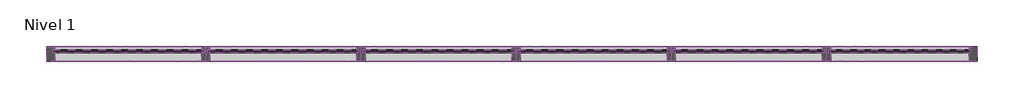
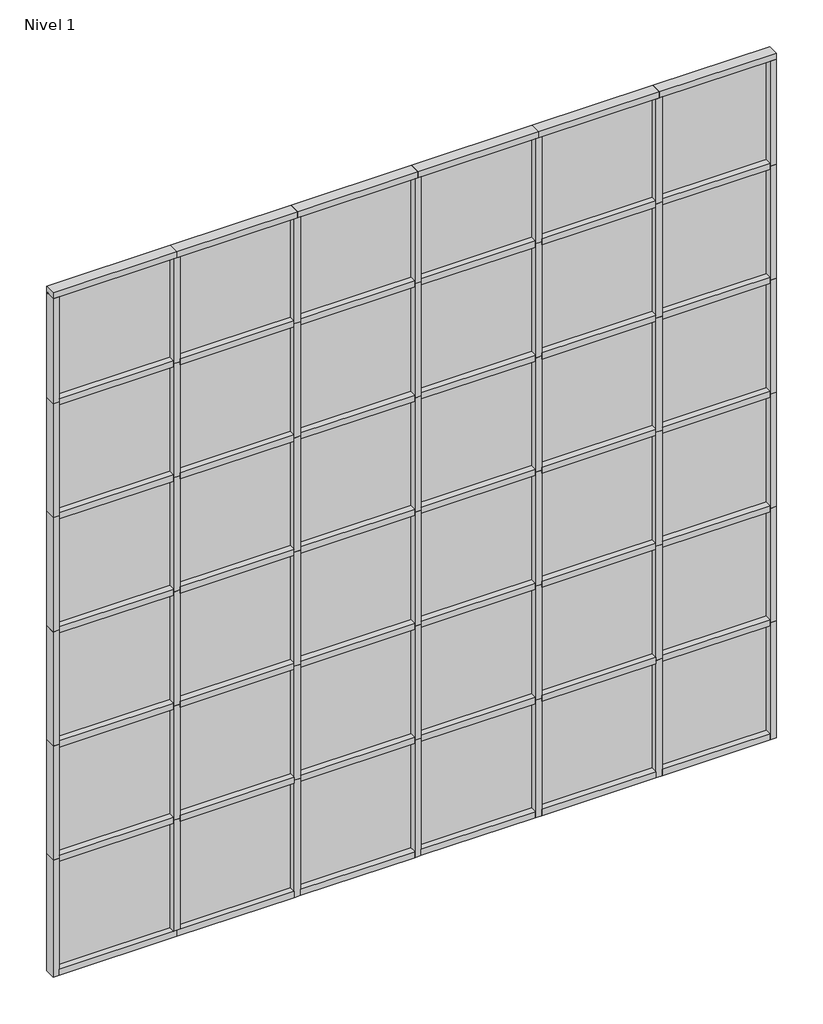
# One storey, part 5 of 6: 84 members, 36 plates.
"""IFC4 building model written with IfcOpenShell, lengths in millimetres."""

from ifc_helpers import new_model, si_unit, origin, place, context, project, spatial, transform, mapped, element, save
from components import montante_rectangular_montante_rectangular_central_30_8_mm_2c331f7a, montante_rectangular_montante_rectangular_central_30_8_mm_c970fd36, montante_rectangular_montante_rectangular_central_30_8_mm_e5800b63, montante_rectangular_montante_rectangular_central_30_8_mm_53c3e57f, montante_rectangular_montante_rectangular_central_30_8_mm_d86f33cf, montante_rectangular_montante_rectangular_central_30_8_mm_2cc1dee6, montante_rectangular_montante_rectangular_extremo_1_30_8_mm_80b4f17c, montante_rectangular_montante_rectangular_extremo_1_30_8_mm_140b2925, montante_rectangular_montante_rectangular_extremo_1_30_8_mm_5074caf2, montante_rectangular_montante_rectangular_extremo_1_30_8_mm_62ab01bd, montante_rectangular_montante_rectangular_extremo_1_30_8_mm_7b62097b, montante_rectangular_montante_rectangular_extremo_1_30_8_mm_4f2bc4b4, plate_e0fb009f, plate_7c9cb06b, plate_31a977c4, plate_dd025fa3

model = new_model("IFC4")

# Units and contexts
model_context = context("Model", 3, world=origin())
ifc_project = project(units=[si_unit("LENGTHUNIT", "METRE", prefix="MILLI")], contexts=[model_context])

# Site, building, storey
site = spatial("IfcSite", under=ifc_project)
building = spatial("IfcBuilding", under=site)
storey = spatial("IfcBuildingStorey", under=building, Name="Nivel 1", Elevation=0.0)

# Members
placement = place(None, origin())
montante_rectangular_montante_rectangular_central_30_8_mm_shape = montante_rectangular_montante_rectangular_central_30_8_mm_2c331f7a(model_context)
element("IfcMember", 1, ObjectType="Montante rectangular : Montante rectangular - Central_30.8 mm", at=placement, inside=storey, context=model_context, shape_type="MappedRepresentation", body=[
    mapped(montante_rectangular_montante_rectangular_central_30_8_mm_shape, transform((3882.4519756, 4524.4730809, 1540.0), x_axis=(0.0, 0.0, 1.0), y_axis=(0.0, -1.0, 0.0), z_axis=(1.0, 0.0, 0.0))),
])
element("IfcMember", 2, ObjectType="Montante rectangular : Montante rectangular - Central_30.8 mm", at=placement, inside=storey, context=model_context, shape_type="MappedRepresentation", body=[
    mapped(montante_rectangular_montante_rectangular_central_30_8_mm_shape, transform((5382.4519756, 4524.4730809, 1540.0), x_axis=(0.0, 0.0, 1.0), y_axis=(0.0, -1.0, 0.0), z_axis=(1.0, 0.0, 0.0))),
])
element("IfcMember", 3, ObjectType="Montante rectangular : Montante rectangular - Central_30.8 mm", at=placement, inside=storey, context=model_context, shape_type="MappedRepresentation", body=[
    mapped(montante_rectangular_montante_rectangular_central_30_8_mm_shape, transform((6882.4519756, 4524.4730809, 1540.0), x_axis=(0.0, 0.0, 1.0), y_axis=(0.0, -1.0, 0.0), z_axis=(1.0, 0.0, 0.0))),
])
element("IfcMember", 4, ObjectType="Montante rectangular : Montante rectangular - Central_30.8 mm", at=placement, inside=storey, context=model_context, shape_type="MappedRepresentation", body=[
    mapped(montante_rectangular_montante_rectangular_central_30_8_mm_shape, transform((8382.4519756, 4524.4730809, 1540.0), x_axis=(0.0, 0.0, 1.0), y_axis=(0.0, -1.0, 0.0), z_axis=(1.0, 0.0, 0.0))),
])
element("IfcMember", 5, ObjectType="Montante rectangular : Montante rectangular - Central_30.8 mm", at=placement, inside=storey, context=model_context, shape_type="MappedRepresentation", body=[
    mapped(montante_rectangular_montante_rectangular_central_30_8_mm_shape, transform((9882.4519756, 4524.4730809, 1540.0), x_axis=(0.0, 0.0, 1.0), y_axis=(0.0, -1.0, 0.0), z_axis=(1.0, 0.0, 0.0))),
])
element("IfcMember", 6, ObjectType="Montante rectangular : Montante rectangular - Central_30.8 mm", at=placement, inside=storey, context=model_context, shape_type="MappedRepresentation", body=[
    mapped(montante_rectangular_montante_rectangular_central_30_8_mm_shape, transform((3882.4519756, 4524.4730809, 3040.0), x_axis=(0.0, 0.0, 1.0), y_axis=(0.0, -1.0, 0.0), z_axis=(1.0, 0.0, 0.0))),
])
element("IfcMember", 7, ObjectType="Montante rectangular : Montante rectangular - Central_30.8 mm", at=placement, inside=storey, context=model_context, shape_type="MappedRepresentation", body=[
    mapped(montante_rectangular_montante_rectangular_central_30_8_mm_shape, transform((5382.4519756, 4524.4730809, 3040.0), x_axis=(0.0, 0.0, 1.0), y_axis=(0.0, -1.0, 0.0), z_axis=(1.0, 0.0, 0.0))),
])
element("IfcMember", 8, ObjectType="Montante rectangular : Montante rectangular - Central_30.8 mm", at=placement, inside=storey, context=model_context, shape_type="MappedRepresentation", body=[
    mapped(montante_rectangular_montante_rectangular_central_30_8_mm_shape, transform((6882.4519756, 4524.4730809, 3040.0), x_axis=(0.0, 0.0, 1.0), y_axis=(0.0, -1.0, 0.0), z_axis=(1.0, 0.0, 0.0))),
])
element("IfcMember", 9, ObjectType="Montante rectangular : Montante rectangular - Central_30.8 mm", at=placement, inside=storey, context=model_context, shape_type="MappedRepresentation", body=[
    mapped(montante_rectangular_montante_rectangular_central_30_8_mm_shape, transform((8382.4519756, 4524.4730809, 3040.0), x_axis=(0.0, 0.0, 1.0), y_axis=(0.0, -1.0, 0.0), z_axis=(1.0, 0.0, 0.0))),
])
element("IfcMember", 10, ObjectType="Montante rectangular : Montante rectangular - Central_30.8 mm", at=placement, inside=storey, context=model_context, shape_type="MappedRepresentation", body=[
    mapped(montante_rectangular_montante_rectangular_central_30_8_mm_shape, transform((9882.4519756, 4524.4730809, 3040.0), x_axis=(0.0, 0.0, 1.0), y_axis=(0.0, -1.0, 0.0), z_axis=(1.0, 0.0, 0.0))),
])
element("IfcMember", 11, ObjectType="Montante rectangular : Montante rectangular - Central_30.8 mm", at=placement, inside=storey, context=model_context, shape_type="MappedRepresentation", body=[
    mapped(montante_rectangular_montante_rectangular_central_30_8_mm_shape, transform((3882.4519756, 4524.4730809, 4540.0), x_axis=(0.0, 0.0, 1.0), y_axis=(0.0, -1.0, 0.0), z_axis=(1.0, 0.0, 0.0))),
])
element("IfcMember", 12, ObjectType="Montante rectangular : Montante rectangular - Central_30.8 mm", at=placement, inside=storey, context=model_context, shape_type="MappedRepresentation", body=[
    mapped(montante_rectangular_montante_rectangular_central_30_8_mm_shape, transform((5382.4519756, 4524.4730809, 4540.0), x_axis=(0.0, 0.0, 1.0), y_axis=(0.0, -1.0, 0.0), z_axis=(1.0, 0.0, 0.0))),
])
element("IfcMember", 13, ObjectType="Montante rectangular : Montante rectangular - Central_30.8 mm", at=placement, inside=storey, context=model_context, shape_type="MappedRepresentation", body=[
    mapped(montante_rectangular_montante_rectangular_central_30_8_mm_shape, transform((6882.4519756, 4524.4730809, 4540.0), x_axis=(0.0, 0.0, 1.0), y_axis=(0.0, -1.0, 0.0), z_axis=(1.0, 0.0, 0.0))),
])
element("IfcMember", 14, ObjectType="Montante rectangular : Montante rectangular - Central_30.8 mm", at=placement, inside=storey, context=model_context, shape_type="MappedRepresentation", body=[
    mapped(montante_rectangular_montante_rectangular_central_30_8_mm_shape, transform((8382.4519756, 4524.4730809, 4540.0), x_axis=(0.0, 0.0, 1.0), y_axis=(0.0, -1.0, 0.0), z_axis=(1.0, 0.0, 0.0))),
])
element("IfcMember", 15, ObjectType="Montante rectangular : Montante rectangular - Central_30.8 mm", at=placement, inside=storey, context=model_context, shape_type="MappedRepresentation", body=[
    mapped(montante_rectangular_montante_rectangular_central_30_8_mm_shape, transform((9882.4519756, 4524.4730809, 4540.0), x_axis=(0.0, 0.0, 1.0), y_axis=(0.0, -1.0, 0.0), z_axis=(1.0, 0.0, 0.0))),
])
element("IfcMember", 16, ObjectType="Montante rectangular : Montante rectangular - Central_30.8 mm", at=placement, inside=storey, context=model_context, shape_type="MappedRepresentation", body=[
    mapped(montante_rectangular_montante_rectangular_central_30_8_mm_shape, transform((3882.4519756, 4524.4730809, 6040.0), x_axis=(0.0, 0.0, 1.0), y_axis=(0.0, -1.0, 0.0), z_axis=(1.0, 0.0, 0.0))),
])
element("IfcMember", 17, ObjectType="Montante rectangular : Montante rectangular - Central_30.8 mm", at=placement, inside=storey, context=model_context, shape_type="MappedRepresentation", body=[
    mapped(montante_rectangular_montante_rectangular_central_30_8_mm_shape, transform((5382.4519756, 4524.4730809, 6040.0), x_axis=(0.0, 0.0, 1.0), y_axis=(0.0, -1.0, 0.0), z_axis=(1.0, 0.0, 0.0))),
])
element("IfcMember", 18, ObjectType="Montante rectangular : Montante rectangular - Central_30.8 mm", at=placement, inside=storey, context=model_context, shape_type="MappedRepresentation", body=[
    mapped(montante_rectangular_montante_rectangular_central_30_8_mm_shape, transform((6882.4519756, 4524.4730809, 6040.0), x_axis=(0.0, 0.0, 1.0), y_axis=(0.0, -1.0, 0.0), z_axis=(1.0, 0.0, 0.0))),
])
element("IfcMember", 19, ObjectType="Montante rectangular : Montante rectangular - Central_30.8 mm", at=placement, inside=storey, context=model_context, shape_type="MappedRepresentation", body=[
    mapped(montante_rectangular_montante_rectangular_central_30_8_mm_shape, transform((8382.4519756, 4524.4730809, 6040.0), x_axis=(0.0, 0.0, 1.0), y_axis=(0.0, -1.0, 0.0), z_axis=(1.0, 0.0, 0.0))),
])
element("IfcMember", 20, ObjectType="Montante rectangular : Montante rectangular - Central_30.8 mm", at=placement, inside=storey, context=model_context, shape_type="MappedRepresentation", body=[
    mapped(montante_rectangular_montante_rectangular_central_30_8_mm_shape, transform((9882.4519756, 4524.4730809, 6040.0), x_axis=(0.0, 0.0, 1.0), y_axis=(0.0, -1.0, 0.0), z_axis=(1.0, 0.0, 0.0))),
])
element("IfcMember", 21, ObjectType="Montante rectangular : Montante rectangular - Central_30.8 mm", at=placement, inside=storey, context=model_context, shape_type="MappedRepresentation", body=[
    mapped(montante_rectangular_montante_rectangular_central_30_8_mm_shape, transform((3882.4519756, 4524.4730809, 7540.0), x_axis=(0.0, 0.0, 1.0), y_axis=(0.0, -1.0, 0.0), z_axis=(1.0, 0.0, 0.0))),
])
element("IfcMember", 22, ObjectType="Montante rectangular : Montante rectangular - Central_30.8 mm", at=placement, inside=storey, context=model_context, shape_type="MappedRepresentation", body=[
    mapped(montante_rectangular_montante_rectangular_central_30_8_mm_shape, transform((5382.4519756, 4524.4730809, 7540.0), x_axis=(0.0, 0.0, 1.0), y_axis=(0.0, -1.0, 0.0), z_axis=(1.0, 0.0, 0.0))),
])
element("IfcMember", 23, ObjectType="Montante rectangular : Montante rectangular - Central_30.8 mm", at=placement, inside=storey, context=model_context, shape_type="MappedRepresentation", body=[
    mapped(montante_rectangular_montante_rectangular_central_30_8_mm_shape, transform((6882.4519756, 4524.4730809, 7540.0), x_axis=(0.0, 0.0, 1.0), y_axis=(0.0, -1.0, 0.0), z_axis=(1.0, 0.0, 0.0))),
])
element("IfcMember", 24, ObjectType="Montante rectangular : Montante rectangular - Central_30.8 mm", at=placement, inside=storey, context=model_context, shape_type="MappedRepresentation", body=[
    mapped(montante_rectangular_montante_rectangular_central_30_8_mm_shape, transform((8382.4519756, 4524.4730809, 7540.0), x_axis=(0.0, 0.0, 1.0), y_axis=(0.0, -1.0, 0.0), z_axis=(1.0, 0.0, 0.0))),
])
element("IfcMember", 25, ObjectType="Montante rectangular : Montante rectangular - Central_30.8 mm", at=placement, inside=storey, context=model_context, shape_type="MappedRepresentation", body=[
    mapped(montante_rectangular_montante_rectangular_central_30_8_mm_shape, transform((9882.4519756, 4524.4730809, 7540.0), x_axis=(0.0, 0.0, 1.0), y_axis=(0.0, -1.0, 0.0), z_axis=(1.0, 0.0, 0.0))),
])
montante_rectangular_montante_rectangular_central_30_8_mm_2_shape = montante_rectangular_montante_rectangular_central_30_8_mm_c970fd36(model_context)
element("IfcMember", 26, ObjectType="Montante rectangular : Montante rectangular - Central_30.8 mm", at=placement, inside=storey, context=model_context, shape_type="MappedRepresentation", body=[
    mapped(montante_rectangular_montante_rectangular_central_30_8_mm_2_shape, transform((3922.4519756, 4524.4730809, 80.0), x_axis=(1.0, 0.0, 0.0), y_axis=(0.0, -1.0, 0.0), z_axis=(0.0, 0.0, -1.0))),
])
montante_rectangular_montante_rectangular_central_30_8_mm_3_shape = montante_rectangular_montante_rectangular_central_30_8_mm_e5800b63(model_context)
element("IfcMember", 27, ObjectType="Montante rectangular : Montante rectangular - Central_30.8 mm", at=placement, inside=storey, context=model_context, shape_type="MappedRepresentation", body=[
    mapped(montante_rectangular_montante_rectangular_central_30_8_mm_3_shape, transform((3922.4519756, 4524.4730809, 1540.0), x_axis=(1.0, 0.0, 0.0), y_axis=(0.0, -1.0, 0.0), z_axis=(0.0, 0.0, -1.0))),
])
element("IfcMember", 28, ObjectType="Montante rectangular : Montante rectangular - Central_30.8 mm", at=placement, inside=storey, context=model_context, shape_type="MappedRepresentation", body=[
    mapped(montante_rectangular_montante_rectangular_central_30_8_mm_3_shape, transform((5422.4519756, 4524.4730809, 1540.0), x_axis=(1.0, 0.0, 0.0), y_axis=(0.0, -1.0, 0.0), z_axis=(0.0, 0.0, -1.0))),
])
element("IfcMember", 29, ObjectType="Montante rectangular : Montante rectangular - Central_30.8 mm", at=placement, inside=storey, context=model_context, shape_type="MappedRepresentation", body=[
    mapped(montante_rectangular_montante_rectangular_central_30_8_mm_3_shape, transform((6922.4519756, 4524.4730809, 1540.0), x_axis=(1.0, 0.0, 0.0), y_axis=(0.0, -1.0, 0.0), z_axis=(0.0, 0.0, -1.0))),
])
element("IfcMember", 30, ObjectType="Montante rectangular : Montante rectangular - Central_30.8 mm", at=placement, inside=storey, context=model_context, shape_type="MappedRepresentation", body=[
    mapped(montante_rectangular_montante_rectangular_central_30_8_mm_3_shape, transform((8422.4519756, 4524.4730809, 1540.0), x_axis=(1.0, 0.0, 0.0), y_axis=(0.0, -1.0, 0.0), z_axis=(0.0, 0.0, -1.0))),
])
element("IfcMember", 31, ObjectType="Montante rectangular : Montante rectangular - Central_30.8 mm", at=placement, inside=storey, context=model_context, shape_type="MappedRepresentation", body=[
    mapped(montante_rectangular_montante_rectangular_central_30_8_mm_3_shape, transform((9922.4519756, 4524.4730809, 1540.0), x_axis=(1.0, 0.0, 0.0), y_axis=(0.0, -1.0, 0.0), z_axis=(0.0, 0.0, -1.0))),
])
element("IfcMember", 32, ObjectType="Montante rectangular : Montante rectangular - Central_30.8 mm", at=placement, inside=storey, context=model_context, shape_type="MappedRepresentation", body=[
    mapped(montante_rectangular_montante_rectangular_central_30_8_mm_3_shape, transform((3922.4519756, 4524.4730809, 3040.0), x_axis=(1.0, 0.0, 0.0), y_axis=(0.0, -1.0, 0.0), z_axis=(0.0, 0.0, -1.0))),
])
element("IfcMember", 33, ObjectType="Montante rectangular : Montante rectangular - Central_30.8 mm", at=placement, inside=storey, context=model_context, shape_type="MappedRepresentation", body=[
    mapped(montante_rectangular_montante_rectangular_central_30_8_mm_3_shape, transform((3922.4519756, 4524.4730809, 4540.0), x_axis=(1.0, 0.0, 0.0), y_axis=(0.0, -1.0, 0.0), z_axis=(0.0, 0.0, -1.0))),
])
element("IfcMember", 34, ObjectType="Montante rectangular : Montante rectangular - Central_30.8 mm", at=placement, inside=storey, context=model_context, shape_type="MappedRepresentation", body=[
    mapped(montante_rectangular_montante_rectangular_central_30_8_mm_3_shape, transform((3922.4519756, 4524.4730809, 6040.0), x_axis=(1.0, 0.0, 0.0), y_axis=(0.0, -1.0, 0.0), z_axis=(0.0, 0.0, -1.0))),
])
element("IfcMember", 35, ObjectType="Montante rectangular : Montante rectangular - Central_30.8 mm", at=placement, inside=storey, context=model_context, shape_type="MappedRepresentation", body=[
    mapped(montante_rectangular_montante_rectangular_central_30_8_mm_3_shape, transform((5422.4519756, 4524.4730809, 3040.0), x_axis=(1.0, 0.0, 0.0), y_axis=(0.0, -1.0, 0.0), z_axis=(0.0, 0.0, -1.0))),
])
element("IfcMember", 36, ObjectType="Montante rectangular : Montante rectangular - Central_30.8 mm", at=placement, inside=storey, context=model_context, shape_type="MappedRepresentation", body=[
    mapped(montante_rectangular_montante_rectangular_central_30_8_mm_3_shape, transform((5422.4519756, 4524.4730809, 4540.0), x_axis=(1.0, 0.0, 0.0), y_axis=(0.0, -1.0, 0.0), z_axis=(0.0, 0.0, -1.0))),
])
element("IfcMember", 37, ObjectType="Montante rectangular : Montante rectangular - Central_30.8 mm", at=placement, inside=storey, context=model_context, shape_type="MappedRepresentation", body=[
    mapped(montante_rectangular_montante_rectangular_central_30_8_mm_3_shape, transform((5422.4519756, 4524.4730809, 6040.0), x_axis=(1.0, 0.0, 0.0), y_axis=(0.0, -1.0, 0.0), z_axis=(0.0, 0.0, -1.0))),
])
element("IfcMember", 38, ObjectType="Montante rectangular : Montante rectangular - Central_30.8 mm", at=placement, inside=storey, context=model_context, shape_type="MappedRepresentation", body=[
    mapped(montante_rectangular_montante_rectangular_central_30_8_mm_3_shape, transform((6922.4519756, 4524.4730809, 3040.0), x_axis=(1.0, 0.0, 0.0), y_axis=(0.0, -1.0, 0.0), z_axis=(0.0, 0.0, -1.0))),
])
element("IfcMember", 39, ObjectType="Montante rectangular : Montante rectangular - Central_30.8 mm", at=placement, inside=storey, context=model_context, shape_type="MappedRepresentation", body=[
    mapped(montante_rectangular_montante_rectangular_central_30_8_mm_3_shape, transform((6922.4519756, 4524.4730809, 4540.0), x_axis=(1.0, 0.0, 0.0), y_axis=(0.0, -1.0, 0.0), z_axis=(0.0, 0.0, -1.0))),
])
element("IfcMember", 40, ObjectType="Montante rectangular : Montante rectangular - Central_30.8 mm", at=placement, inside=storey, context=model_context, shape_type="MappedRepresentation", body=[
    mapped(montante_rectangular_montante_rectangular_central_30_8_mm_3_shape, transform((6922.4519756, 4524.4730809, 6040.0), x_axis=(1.0, 0.0, 0.0), y_axis=(0.0, -1.0, 0.0), z_axis=(0.0, 0.0, -1.0))),
])
element("IfcMember", 41, ObjectType="Montante rectangular : Montante rectangular - Central_30.8 mm", at=placement, inside=storey, context=model_context, shape_type="MappedRepresentation", body=[
    mapped(montante_rectangular_montante_rectangular_central_30_8_mm_3_shape, transform((8422.4519756, 4524.4730809, 3040.0), x_axis=(1.0, 0.0, 0.0), y_axis=(0.0, -1.0, 0.0), z_axis=(0.0, 0.0, -1.0))),
])
element("IfcMember", 42, ObjectType="Montante rectangular : Montante rectangular - Central_30.8 mm", at=placement, inside=storey, context=model_context, shape_type="MappedRepresentation", body=[
    mapped(montante_rectangular_montante_rectangular_central_30_8_mm_3_shape, transform((8422.4519756, 4524.4730809, 4540.0), x_axis=(1.0, 0.0, 0.0), y_axis=(0.0, -1.0, 0.0), z_axis=(0.0, 0.0, -1.0))),
])
element("IfcMember", 43, ObjectType="Montante rectangular : Montante rectangular - Central_30.8 mm", at=placement, inside=storey, context=model_context, shape_type="MappedRepresentation", body=[
    mapped(montante_rectangular_montante_rectangular_central_30_8_mm_3_shape, transform((8422.4519756, 4524.4730809, 6040.0), x_axis=(1.0, 0.0, 0.0), y_axis=(0.0, -1.0, 0.0), z_axis=(0.0, 0.0, -1.0))),
])
element("IfcMember", 44, ObjectType="Montante rectangular : Montante rectangular - Central_30.8 mm", at=placement, inside=storey, context=model_context, shape_type="MappedRepresentation", body=[
    mapped(montante_rectangular_montante_rectangular_central_30_8_mm_3_shape, transform((9922.4519756, 4524.4730809, 3040.0), x_axis=(1.0, 0.0, 0.0), y_axis=(0.0, -1.0, 0.0), z_axis=(0.0, 0.0, -1.0))),
])
element("IfcMember", 45, ObjectType="Montante rectangular : Montante rectangular - Central_30.8 mm", at=placement, inside=storey, context=model_context, shape_type="MappedRepresentation", body=[
    mapped(montante_rectangular_montante_rectangular_central_30_8_mm_3_shape, transform((9922.4519756, 4524.4730809, 4540.0), x_axis=(1.0, 0.0, 0.0), y_axis=(0.0, -1.0, 0.0), z_axis=(0.0, 0.0, -1.0))),
])
element("IfcMember", 46, ObjectType="Montante rectangular : Montante rectangular - Central_30.8 mm", at=placement, inside=storey, context=model_context, shape_type="MappedRepresentation", body=[
    mapped(montante_rectangular_montante_rectangular_central_30_8_mm_3_shape, transform((9922.4519756, 4524.4730809, 6040.0), x_axis=(1.0, 0.0, 0.0), y_axis=(0.0, -1.0, 0.0), z_axis=(0.0, 0.0, -1.0))),
])
montante_rectangular_montante_rectangular_central_30_8_mm_4_shape = montante_rectangular_montante_rectangular_central_30_8_mm_53c3e57f(model_context)
element("IfcMember", 47, ObjectType="Montante rectangular : Montante rectangular - Central_30.8 mm", at=placement, inside=storey, context=model_context, shape_type="MappedRepresentation", body=[
    mapped(montante_rectangular_montante_rectangular_central_30_8_mm_4_shape, transform((5422.4519756, 4524.4730809, 0.0), x_axis=(1.0, 0.0, 0.0), y_axis=(0.0, -1.0, 0.0), z_axis=(0.0, 0.0, -1.0))),
])
element("IfcMember", 48, ObjectType="Montante rectangular : Montante rectangular - Central_30.8 mm", at=placement, inside=storey, context=model_context, shape_type="MappedRepresentation", body=[
    mapped(montante_rectangular_montante_rectangular_central_30_8_mm_4_shape, transform((6922.4519756, 4524.4730809, 0.0), x_axis=(1.0, 0.0, 0.0), y_axis=(0.0, -1.0, 0.0), z_axis=(0.0, 0.0, -1.0))),
])
element("IfcMember", 49, ObjectType="Montante rectangular : Montante rectangular - Central_30.8 mm", at=placement, inside=storey, context=model_context, shape_type="MappedRepresentation", body=[
    mapped(montante_rectangular_montante_rectangular_central_30_8_mm_4_shape, transform((8422.4519756, 4524.4730809, 0.0), x_axis=(1.0, 0.0, 0.0), y_axis=(0.0, -1.0, 0.0), z_axis=(0.0, 0.0, -1.0))),
])
element("IfcMember", 50, ObjectType="Montante rectangular : Montante rectangular - Central_30.8 mm", at=placement, inside=storey, context=model_context, shape_type="MappedRepresentation", body=[
    mapped(montante_rectangular_montante_rectangular_central_30_8_mm_4_shape, transform((9922.4519756, 4524.4730809, 0.0), x_axis=(1.0, 0.0, 0.0), y_axis=(0.0, -1.0, 0.0), z_axis=(0.0, 0.0, -1.0))),
])
montante_rectangular_montante_rectangular_central_30_8_mm_5_shape = montante_rectangular_montante_rectangular_central_30_8_mm_d86f33cf(model_context)
element("IfcMember", 51, ObjectType="Montante rectangular : Montante rectangular - Central_30.8 mm", at=placement, inside=storey, context=model_context, shape_type="MappedRepresentation", body=[
    mapped(montante_rectangular_montante_rectangular_central_30_8_mm_5_shape, transform((11302.4519756, 4524.4730809, 1540.0), x_axis=(0.0, 0.0, 1.0), y_axis=(0.0, -1.0, 0.0), z_axis=(1.0, 0.0, 0.0))),
])
element("IfcMember", 52, ObjectType="Montante rectangular : Montante rectangular - Central_30.8 mm", at=placement, inside=storey, context=model_context, shape_type="MappedRepresentation", body=[
    mapped(montante_rectangular_montante_rectangular_central_30_8_mm_5_shape, transform((11302.4519756, 4524.4730809, 3040.0), x_axis=(0.0, 0.0, 1.0), y_axis=(0.0, -1.0, 0.0), z_axis=(1.0, 0.0, 0.0))),
])
element("IfcMember", 53, ObjectType="Montante rectangular : Montante rectangular - Central_30.8 mm", at=placement, inside=storey, context=model_context, shape_type="MappedRepresentation", body=[
    mapped(montante_rectangular_montante_rectangular_central_30_8_mm_5_shape, transform((11302.4519756, 4524.4730809, 4540.0), x_axis=(0.0, 0.0, 1.0), y_axis=(0.0, -1.0, 0.0), z_axis=(1.0, 0.0, 0.0))),
])
element("IfcMember", 54, ObjectType="Montante rectangular : Montante rectangular - Central_30.8 mm", at=placement, inside=storey, context=model_context, shape_type="MappedRepresentation", body=[
    mapped(montante_rectangular_montante_rectangular_central_30_8_mm_5_shape, transform((11302.4519756, 4524.4730809, 6040.0), x_axis=(0.0, 0.0, 1.0), y_axis=(0.0, -1.0, 0.0), z_axis=(1.0, 0.0, 0.0))),
])
element("IfcMember", 55, ObjectType="Montante rectangular : Montante rectangular - Central_30.8 mm", at=placement, inside=storey, context=model_context, shape_type="MappedRepresentation", body=[
    mapped(montante_rectangular_montante_rectangular_central_30_8_mm_5_shape, transform((11302.4519756, 4524.4730809, 7540.0), x_axis=(0.0, 0.0, 1.0), y_axis=(0.0, -1.0, 0.0), z_axis=(1.0, 0.0, 0.0))),
])
montante_rectangular_montante_rectangular_central_30_8_mm_6_shape = montante_rectangular_montante_rectangular_central_30_8_mm_2cc1dee6(model_context)
element("IfcMember", 56, ObjectType="Montante rectangular : Montante rectangular - Central_30.8 mm", at=placement, inside=storey, context=model_context, shape_type="MappedRepresentation", body=[
    mapped(montante_rectangular_montante_rectangular_central_30_8_mm_6_shape, transform((3922.4519756, 4524.4730809, 7540.0), x_axis=(1.0, 0.0, 0.0), y_axis=(0.0, -1.0, 0.0), z_axis=(0.0, 0.0, -1.0))),
])
element("IfcMember", 57, ObjectType="Montante rectangular : Montante rectangular - Central_30.8 mm", at=placement, inside=storey, context=model_context, shape_type="MappedRepresentation", body=[
    mapped(montante_rectangular_montante_rectangular_central_30_8_mm_6_shape, transform((5422.4519756, 4524.4730809, 7540.0), x_axis=(1.0, 0.0, 0.0), y_axis=(0.0, -1.0, 0.0), z_axis=(0.0, 0.0, -1.0))),
])
element("IfcMember", 58, ObjectType="Montante rectangular : Montante rectangular - Central_30.8 mm", at=placement, inside=storey, context=model_context, shape_type="MappedRepresentation", body=[
    mapped(montante_rectangular_montante_rectangular_central_30_8_mm_6_shape, transform((6922.4519756, 4524.4730809, 7540.0), x_axis=(1.0, 0.0, 0.0), y_axis=(0.0, -1.0, 0.0), z_axis=(0.0, 0.0, -1.0))),
])
element("IfcMember", 59, ObjectType="Montante rectangular : Montante rectangular - Central_30.8 mm", at=placement, inside=storey, context=model_context, shape_type="MappedRepresentation", body=[
    mapped(montante_rectangular_montante_rectangular_central_30_8_mm_6_shape, transform((8422.4519756, 4524.4730809, 7540.0), x_axis=(1.0, 0.0, 0.0), y_axis=(0.0, -1.0, 0.0), z_axis=(0.0, 0.0, -1.0))),
])
element("IfcMember", 60, ObjectType="Montante rectangular : Montante rectangular - Central_30.8 mm", at=placement, inside=storey, context=model_context, shape_type="MappedRepresentation", body=[
    mapped(montante_rectangular_montante_rectangular_central_30_8_mm_6_shape, transform((9922.4519756, 4524.4730809, 7540.0), x_axis=(1.0, 0.0, 0.0), y_axis=(0.0, -1.0, 0.0), z_axis=(0.0, 0.0, -1.0))),
])
montante_rectangular_montante_rectangular_extremo_1_30_8_mm_shape = montante_rectangular_montante_rectangular_extremo_1_30_8_mm_80b4f17c(model_context)
element("IfcMember", 61, ObjectType="Montante rectangular : Montante rectangular - Extremo 1_30.8 mm", at=placement, inside=storey, context=model_context, shape_type="MappedRepresentation", body=[
    mapped(montante_rectangular_montante_rectangular_extremo_1_30_8_mm_shape, transform((2462.4519756, 4524.4730809, 0.0), x_axis=(0.0, 0.0, -1.0), y_axis=(0.0, -1.0, 0.0), z_axis=(-1.0, 0.0, 0.0))),
])
element("IfcMember", 62, ObjectType="Montante rectangular : Montante rectangular - Extremo 1_30.8 mm", at=placement, inside=storey, context=model_context, shape_type="MappedRepresentation", body=[
    mapped(montante_rectangular_montante_rectangular_extremo_1_30_8_mm_shape, transform((3922.4519756, 4524.4730809, 0.0), x_axis=(0.0, 0.0, -1.0), y_axis=(0.0, -1.0, 0.0), z_axis=(-1.0, 0.0, 0.0))),
])
montante_rectangular_montante_rectangular_extremo_1_30_8_mm_2_shape = montante_rectangular_montante_rectangular_extremo_1_30_8_mm_140b2925(model_context)
element("IfcMember", 63, ObjectType="Montante rectangular : Montante rectangular - Extremo 1_30.8 mm", at=placement, inside=storey, context=model_context, shape_type="MappedRepresentation", body=[
    mapped(montante_rectangular_montante_rectangular_extremo_1_30_8_mm_2_shape, transform((5462.4519756, 4524.4730809, 0.0), x_axis=(0.0, 0.0, -1.0), y_axis=(0.0, -1.0, 0.0), z_axis=(-1.0, 0.0, 0.0))),
])
element("IfcMember", 64, ObjectType="Montante rectangular : Montante rectangular - Extremo 1_30.8 mm", at=placement, inside=storey, context=model_context, shape_type="MappedRepresentation", body=[
    mapped(montante_rectangular_montante_rectangular_extremo_1_30_8_mm_2_shape, transform((6962.4519756, 4524.4730809, 0.0), x_axis=(0.0, 0.0, -1.0), y_axis=(0.0, -1.0, 0.0), z_axis=(-1.0, 0.0, 0.0))),
])
element("IfcMember", 65, ObjectType="Montante rectangular : Montante rectangular - Extremo 1_30.8 mm", at=placement, inside=storey, context=model_context, shape_type="MappedRepresentation", body=[
    mapped(montante_rectangular_montante_rectangular_extremo_1_30_8_mm_2_shape, transform((8462.4519756, 4524.4730809, 0.0), x_axis=(0.0, 0.0, -1.0), y_axis=(0.0, -1.0, 0.0), z_axis=(-1.0, 0.0, 0.0))),
])
montante_rectangular_montante_rectangular_extremo_1_30_8_mm_3_shape = montante_rectangular_montante_rectangular_extremo_1_30_8_mm_5074caf2(model_context)
element("IfcMember", 66, ObjectType="Montante rectangular : Montante rectangular - Extremo 1_30.8 mm", at=placement, inside=storey, context=model_context, shape_type="MappedRepresentation", body=[
    mapped(montante_rectangular_montante_rectangular_extremo_1_30_8_mm_3_shape, transform((9962.4519756, 4524.4730809, 0.0), x_axis=(0.0, 0.0, -1.0), y_axis=(0.0, -1.0, 0.0), z_axis=(-1.0, 0.0, 0.0))),
])
montante_rectangular_montante_rectangular_extremo_1_30_8_mm_4_shape = montante_rectangular_montante_rectangular_extremo_1_30_8_mm_62ab01bd(model_context)
element("IfcMember", 67, ObjectType="Montante rectangular : Montante rectangular - Extremo 1_30.8 mm", at=placement, inside=storey, context=model_context, shape_type="MappedRepresentation", body=[
    mapped(montante_rectangular_montante_rectangular_extremo_1_30_8_mm_4_shape, transform((2382.4519756, 4524.4730809, 8920.0), x_axis=(-1.0, 0.0, 0.0), y_axis=(0.0, -1.0, 0.0), z_axis=(0.0, 0.0, 1.0))),
])
montante_rectangular_montante_rectangular_extremo_1_30_8_mm_5_shape = montante_rectangular_montante_rectangular_extremo_1_30_8_mm_7b62097b(model_context)
element("IfcMember", 68, ObjectType="Montante rectangular : Montante rectangular - Extremo 1_30.8 mm", at=placement, inside=storey, context=model_context, shape_type="MappedRepresentation", body=[
    mapped(montante_rectangular_montante_rectangular_extremo_1_30_8_mm_5_shape, transform((2382.4519756, 4524.4730809, 1540.0), x_axis=(-1.0, 0.0, 0.0), y_axis=(0.0, -1.0, 0.0), z_axis=(0.0, 0.0, 1.0))),
])
montante_rectangular_montante_rectangular_extremo_1_30_8_mm_6_shape = montante_rectangular_montante_rectangular_extremo_1_30_8_mm_4f2bc4b4(model_context)
element("IfcMember", 69, ObjectType="Montante rectangular : Montante rectangular - Extremo 1_30.8 mm", at=placement, inside=storey, context=model_context, shape_type="MappedRepresentation", body=[
    mapped(montante_rectangular_montante_rectangular_extremo_1_30_8_mm_6_shape, transform((2382.4519756, 4524.4730809, 3040.0), x_axis=(-1.0, 0.0, 0.0), y_axis=(0.0, -1.0, 0.0), z_axis=(0.0, 0.0, 1.0))),
])
element("IfcMember", 70, ObjectType="Montante rectangular : Montante rectangular - Extremo 1_30.8 mm", at=placement, inside=storey, context=model_context, shape_type="MappedRepresentation", body=[
    mapped(montante_rectangular_montante_rectangular_extremo_1_30_8_mm_6_shape, transform((2382.4519756, 4524.4730809, 4540.0), x_axis=(-1.0, 0.0, 0.0), y_axis=(0.0, -1.0, 0.0), z_axis=(0.0, 0.0, 1.0))),
])
element("IfcMember", 71, ObjectType="Montante rectangular : Montante rectangular - Extremo 1_30.8 mm", at=placement, inside=storey, context=model_context, shape_type="MappedRepresentation", body=[
    mapped(montante_rectangular_montante_rectangular_extremo_1_30_8_mm_6_shape, transform((2382.4519756, 4524.4730809, 6040.0), x_axis=(-1.0, 0.0, 0.0), y_axis=(0.0, -1.0, 0.0), z_axis=(0.0, 0.0, 1.0))),
])
element("IfcMember", 72, ObjectType="Montante rectangular : Montante rectangular - Extremo 1_30.8 mm", at=placement, inside=storey, context=model_context, shape_type="MappedRepresentation", body=[
    mapped(montante_rectangular_montante_rectangular_extremo_1_30_8_mm_6_shape, transform((2382.4519756, 4524.4730809, 7540.0), x_axis=(-1.0, 0.0, 0.0), y_axis=(0.0, -1.0, 0.0), z_axis=(0.0, 0.0, 1.0))),
])
element("IfcMember", 73, ObjectType="Montante rectangular : Montante rectangular - Extremo 2_30.8 mm", at=placement, inside=storey, context=model_context, shape_type="MappedRepresentation", body=[
    mapped(montante_rectangular_montante_rectangular_extremo_1_30_8_mm_shape, transform((11382.4519756, 4524.4730809, 9000.0), x_axis=(0.0, 0.0, 1.0), y_axis=(0.0, -1.0, 0.0), z_axis=(1.0, 0.0, 0.0))),
])
element("IfcMember", 74, ObjectType="Montante rectangular : Montante rectangular - Extremo 2_30.8 mm", at=placement, inside=storey, context=model_context, shape_type="MappedRepresentation", body=[
    mapped(montante_rectangular_montante_rectangular_extremo_1_30_8_mm_5_shape, transform((3922.4519756, 4524.4730809, 9000.0), x_axis=(0.0, 0.0, 1.0), y_axis=(0.0, -1.0, 0.0), z_axis=(1.0, 0.0, 0.0))),
])
element("IfcMember", 75, ObjectType="Montante rectangular : Montante rectangular - Extremo 2_30.8 mm", at=placement, inside=storey, context=model_context, shape_type="MappedRepresentation", body=[
    mapped(montante_rectangular_montante_rectangular_extremo_1_30_8_mm_6_shape, transform((5422.4519756, 4524.4730809, 9000.0), x_axis=(0.0, 0.0, 1.0), y_axis=(0.0, -1.0, 0.0), z_axis=(1.0, 0.0, 0.0))),
])
element("IfcMember", 76, ObjectType="Montante rectangular : Montante rectangular - Extremo 2_30.8 mm", at=placement, inside=storey, context=model_context, shape_type="MappedRepresentation", body=[
    mapped(montante_rectangular_montante_rectangular_extremo_1_30_8_mm_6_shape, transform((6922.4519756, 4524.4730809, 9000.0), x_axis=(0.0, 0.0, 1.0), y_axis=(0.0, -1.0, 0.0), z_axis=(1.0, 0.0, 0.0))),
])
element("IfcMember", 77, ObjectType="Montante rectangular : Montante rectangular - Extremo 2_30.8 mm", at=placement, inside=storey, context=model_context, shape_type="MappedRepresentation", body=[
    mapped(montante_rectangular_montante_rectangular_extremo_1_30_8_mm_6_shape, transform((8422.4519756, 4524.4730809, 9000.0), x_axis=(0.0, 0.0, 1.0), y_axis=(0.0, -1.0, 0.0), z_axis=(1.0, 0.0, 0.0))),
])
element("IfcMember", 78, ObjectType="Montante rectangular : Montante rectangular - Extremo 2_30.8 mm", at=placement, inside=storey, context=model_context, shape_type="MappedRepresentation", body=[
    mapped(montante_rectangular_montante_rectangular_extremo_1_30_8_mm_6_shape, transform((9922.4519756, 4524.4730809, 9000.0), x_axis=(0.0, 0.0, 1.0), y_axis=(0.0, -1.0, 0.0), z_axis=(1.0, 0.0, 0.0))),
])
element("IfcMember", 79, ObjectType="Montante rectangular : Montante rectangular - Extremo 2_30.8 mm", at=placement, inside=storey, context=model_context, shape_type="MappedRepresentation", body=[
    mapped(montante_rectangular_montante_rectangular_extremo_1_30_8_mm_5_shape, transform((11382.4519756, 4524.4730809, 0.0), x_axis=(1.0, 0.0, 0.0), y_axis=(0.0, -1.0, 0.0), z_axis=(0.0, 0.0, -1.0))),
])
element("IfcMember", 80, ObjectType="Montante rectangular : Montante rectangular - Extremo 2_30.8 mm", at=placement, inside=storey, context=model_context, shape_type="MappedRepresentation", body=[
    mapped(montante_rectangular_montante_rectangular_extremo_1_30_8_mm_6_shape, transform((11382.4519756, 4524.4730809, 1540.0), x_axis=(1.0, 0.0, 0.0), y_axis=(0.0, -1.0, 0.0), z_axis=(0.0, 0.0, -1.0))),
])
element("IfcMember", 81, ObjectType="Montante rectangular : Montante rectangular - Extremo 2_30.8 mm", at=placement, inside=storey, context=model_context, shape_type="MappedRepresentation", body=[
    mapped(montante_rectangular_montante_rectangular_extremo_1_30_8_mm_6_shape, transform((11382.4519756, 4524.4730809, 3040.0), x_axis=(1.0, 0.0, 0.0), y_axis=(0.0, -1.0, 0.0), z_axis=(0.0, 0.0, -1.0))),
])
element("IfcMember", 82, ObjectType="Montante rectangular : Montante rectangular - Extremo 2_30.8 mm", at=placement, inside=storey, context=model_context, shape_type="MappedRepresentation", body=[
    mapped(montante_rectangular_montante_rectangular_extremo_1_30_8_mm_6_shape, transform((11382.4519756, 4524.4730809, 4540.0), x_axis=(1.0, 0.0, 0.0), y_axis=(0.0, -1.0, 0.0), z_axis=(0.0, 0.0, -1.0))),
])
element("IfcMember", 83, ObjectType="Montante rectangular : Montante rectangular - Extremo 2_30.8 mm", at=placement, inside=storey, context=model_context, shape_type="MappedRepresentation", body=[
    mapped(montante_rectangular_montante_rectangular_extremo_1_30_8_mm_6_shape, transform((11382.4519756, 4524.4730809, 6040.0), x_axis=(1.0, 0.0, 0.0), y_axis=(0.0, -1.0, 0.0), z_axis=(0.0, 0.0, -1.0))),
])
element("IfcMember", 84, ObjectType="Montante rectangular : Montante rectangular - Extremo 2_30.8 mm", at=placement, inside=storey, context=model_context, shape_type="MappedRepresentation", body=[
    mapped(montante_rectangular_montante_rectangular_extremo_1_30_8_mm_4_shape, transform((11382.4519756, 4524.4730809, 7540.0), x_axis=(1.0, 0.0, 0.0), y_axis=(0.0, -1.0, 0.0), z_axis=(0.0, 0.0, -1.0))),
])

# Plates
plate_shape = plate_e0fb009f(model_context)
element("IfcPlate", 85, ObjectType="2014_Panel-Cristal-MC_SGG_COOL-LITE-KNT 464 : CLIMALIT PLUS con COOL LITE KNT 464 F2 6 (16 argon90%) 44.2", at=placement, inside=storey, context=model_context, shape_type="MappedRepresentation", body=[
    mapped(plate_shape, transform((3172.4519756, 4524.4730809, 80.0), x_axis=(1.0, 0.0, 0.0), y_axis=(0.0, 1.0, 0.0), z_axis=(0.0, 0.0, 1.0))),
])
element("IfcPlate", 86, ObjectType="2014_Panel-Cristal-MC_SGG_COOL-LITE-KNT 464 : CLIMALIT PLUS con COOL LITE KNT 464 F2 6 (16 argon90%) 44.2", at=placement, inside=storey, context=model_context, shape_type="MappedRepresentation", body=[
    mapped(plate_shape, transform((3172.4519756, 4524.4730809, 1580.0), x_axis=(1.0, 0.0, 0.0), y_axis=(0.0, 1.0, 0.0), z_axis=(0.0, 0.0, 1.0))),
])
element("IfcPlate", 87, ObjectType="2014_Panel-Cristal-MC_SGG_COOL-LITE-KNT 464 : CLIMALIT PLUS con COOL LITE KNT 464 F2 6 (16 argon90%) 44.2", at=placement, inside=storey, context=model_context, shape_type="MappedRepresentation", body=[
    mapped(plate_shape, transform((3172.4519756, 4524.4730809, 3080.0), x_axis=(1.0, 0.0, 0.0), y_axis=(0.0, 1.0, 0.0), z_axis=(0.0, 0.0, 1.0))),
])
element("IfcPlate", 88, ObjectType="2014_Panel-Cristal-MC_SGG_COOL-LITE-KNT 464 : CLIMALIT PLUS con COOL LITE KNT 464 F2 6 (16 argon90%) 44.2", at=placement, inside=storey, context=model_context, shape_type="MappedRepresentation", body=[
    mapped(plate_shape, transform((3172.4519756, 4524.4730809, 4580.0), x_axis=(1.0, 0.0, 0.0), y_axis=(0.0, 1.0, 0.0), z_axis=(0.0, 0.0, 1.0))),
])
element("IfcPlate", 89, ObjectType="2014_Panel-Cristal-MC_SGG_COOL-LITE-KNT 464 : CLIMALIT PLUS con COOL LITE KNT 464 F2 6 (16 argon90%) 44.2", at=placement, inside=storey, context=model_context, shape_type="MappedRepresentation", body=[
    mapped(plate_shape, transform((3172.4519756, 4524.4730809, 6080.0), x_axis=(1.0, 0.0, 0.0), y_axis=(0.0, 1.0, 0.0), z_axis=(0.0, 0.0, 1.0))),
])
element("IfcPlate", 90, ObjectType="2014_Panel-Cristal-MC_SGG_COOL-LITE-KNT 464 : CLIMALIT PLUS con COOL LITE KNT 464 F2 6 (16 argon90%) 44.2", at=placement, inside=storey, context=model_context, shape_type="MappedRepresentation", body=[
    mapped(plate_shape, transform((4672.4519756, 4524.4730809, 80.0), x_axis=(1.0, 0.0, 0.0), y_axis=(0.0, 1.0, 0.0), z_axis=(0.0, 0.0, 1.0))),
])
element("IfcPlate", 91, ObjectType="2014_Panel-Cristal-MC_SGG_COOL-LITE-KNT 464 : CLIMALIT PLUS con COOL LITE KNT 464 F2 6 (16 argon90%) 44.2", at=placement, inside=storey, context=model_context, shape_type="MappedRepresentation", body=[
    mapped(plate_shape, transform((4672.4519756, 4524.4730809, 1580.0), x_axis=(1.0, 0.0, 0.0), y_axis=(0.0, 1.0, 0.0), z_axis=(0.0, 0.0, 1.0))),
])
element("IfcPlate", 92, ObjectType="2014_Panel-Cristal-MC_SGG_COOL-LITE-KNT 464 : CLIMALIT PLUS con COOL LITE KNT 464 F2 6 (16 argon90%) 44.2", at=placement, inside=storey, context=model_context, shape_type="MappedRepresentation", body=[
    mapped(plate_shape, transform((4672.4519756, 4524.4730809, 3080.0), x_axis=(1.0, 0.0, 0.0), y_axis=(0.0, 1.0, 0.0), z_axis=(0.0, 0.0, 1.0))),
])
element("IfcPlate", 93, ObjectType="2014_Panel-Cristal-MC_SGG_COOL-LITE-KNT 464 : CLIMALIT PLUS con COOL LITE KNT 464 F2 6 (16 argon90%) 44.2", at=placement, inside=storey, context=model_context, shape_type="MappedRepresentation", body=[
    mapped(plate_shape, transform((4672.4519756, 4524.4730809, 4580.0), x_axis=(1.0, 0.0, 0.0), y_axis=(0.0, 1.0, 0.0), z_axis=(0.0, 0.0, 1.0))),
])
element("IfcPlate", 94, ObjectType="2014_Panel-Cristal-MC_SGG_COOL-LITE-KNT 464 : CLIMALIT PLUS con COOL LITE KNT 464 F2 6 (16 argon90%) 44.2", at=placement, inside=storey, context=model_context, shape_type="MappedRepresentation", body=[
    mapped(plate_shape, transform((4672.4519756, 4524.4730809, 6080.0), x_axis=(1.0, 0.0, 0.0), y_axis=(0.0, 1.0, 0.0), z_axis=(0.0, 0.0, 1.0))),
])
element("IfcPlate", 95, ObjectType="2014_Panel-Cristal-MC_SGG_COOL-LITE-KNT 464 : CLIMALIT PLUS con COOL LITE KNT 464 F2 6 (16 argon90%) 44.2", at=placement, inside=storey, context=model_context, shape_type="MappedRepresentation", body=[
    mapped(plate_shape, transform((6172.4519756, 4524.4730809, 80.0), x_axis=(1.0, 0.0, 0.0), y_axis=(0.0, 1.0, 0.0), z_axis=(0.0, 0.0, 1.0))),
])
element("IfcPlate", 96, ObjectType="2014_Panel-Cristal-MC_SGG_COOL-LITE-KNT 464 : CLIMALIT PLUS con COOL LITE KNT 464 F2 6 (16 argon90%) 44.2", at=placement, inside=storey, context=model_context, shape_type="MappedRepresentation", body=[
    mapped(plate_shape, transform((6172.4519756, 4524.4730809, 1580.0), x_axis=(1.0, 0.0, 0.0), y_axis=(0.0, 1.0, 0.0), z_axis=(0.0, 0.0, 1.0))),
])
element("IfcPlate", 97, ObjectType="2014_Panel-Cristal-MC_SGG_COOL-LITE-KNT 464 : CLIMALIT PLUS con COOL LITE KNT 464 F2 6 (16 argon90%) 44.2", at=placement, inside=storey, context=model_context, shape_type="MappedRepresentation", body=[
    mapped(plate_shape, transform((6172.4519756, 4524.4730809, 3080.0), x_axis=(1.0, 0.0, 0.0), y_axis=(0.0, 1.0, 0.0), z_axis=(0.0, 0.0, 1.0))),
])
element("IfcPlate", 98, ObjectType="2014_Panel-Cristal-MC_SGG_COOL-LITE-KNT 464 : CLIMALIT PLUS con COOL LITE KNT 464 F2 6 (16 argon90%) 44.2", at=placement, inside=storey, context=model_context, shape_type="MappedRepresentation", body=[
    mapped(plate_shape, transform((6172.4519756, 4524.4730809, 4580.0), x_axis=(1.0, 0.0, 0.0), y_axis=(0.0, 1.0, 0.0), z_axis=(0.0, 0.0, 1.0))),
])
element("IfcPlate", 99, ObjectType="2014_Panel-Cristal-MC_SGG_COOL-LITE-KNT 464 : CLIMALIT PLUS con COOL LITE KNT 464 F2 6 (16 argon90%) 44.2", at=placement, inside=storey, context=model_context, shape_type="MappedRepresentation", body=[
    mapped(plate_shape, transform((6172.4519756, 4524.4730809, 6080.0), x_axis=(1.0, 0.0, 0.0), y_axis=(0.0, 1.0, 0.0), z_axis=(0.0, 0.0, 1.0))),
])
element("IfcPlate", 100, ObjectType="2014_Panel-Cristal-MC_SGG_COOL-LITE-KNT 464 : CLIMALIT PLUS con COOL LITE KNT 464 F2 6 (16 argon90%) 44.2", at=placement, inside=storey, context=model_context, shape_type="MappedRepresentation", body=[
    mapped(plate_shape, transform((7672.4519756, 4524.4730809, 80.0), x_axis=(1.0, 0.0, 0.0), y_axis=(0.0, 1.0, 0.0), z_axis=(0.0, 0.0, 1.0))),
])
element("IfcPlate", 101, ObjectType="2014_Panel-Cristal-MC_SGG_COOL-LITE-KNT 464 : CLIMALIT PLUS con COOL LITE KNT 464 F2 6 (16 argon90%) 44.2", at=placement, inside=storey, context=model_context, shape_type="MappedRepresentation", body=[
    mapped(plate_shape, transform((7672.4519756, 4524.4730809, 1580.0), x_axis=(1.0, 0.0, 0.0), y_axis=(0.0, 1.0, 0.0), z_axis=(0.0, 0.0, 1.0))),
])
element("IfcPlate", 102, ObjectType="2014_Panel-Cristal-MC_SGG_COOL-LITE-KNT 464 : CLIMALIT PLUS con COOL LITE KNT 464 F2 6 (16 argon90%) 44.2", at=placement, inside=storey, context=model_context, shape_type="MappedRepresentation", body=[
    mapped(plate_shape, transform((7672.4519756, 4524.4730809, 3080.0), x_axis=(1.0, 0.0, 0.0), y_axis=(0.0, 1.0, 0.0), z_axis=(0.0, 0.0, 1.0))),
])
element("IfcPlate", 103, ObjectType="2014_Panel-Cristal-MC_SGG_COOL-LITE-KNT 464 : CLIMALIT PLUS con COOL LITE KNT 464 F2 6 (16 argon90%) 44.2", at=placement, inside=storey, context=model_context, shape_type="MappedRepresentation", body=[
    mapped(plate_shape, transform((7672.4519756, 4524.4730809, 4580.0), x_axis=(1.0, 0.0, 0.0), y_axis=(0.0, 1.0, 0.0), z_axis=(0.0, 0.0, 1.0))),
])
element("IfcPlate", 104, ObjectType="2014_Panel-Cristal-MC_SGG_COOL-LITE-KNT 464 : CLIMALIT PLUS con COOL LITE KNT 464 F2 6 (16 argon90%) 44.2", at=placement, inside=storey, context=model_context, shape_type="MappedRepresentation", body=[
    mapped(plate_shape, transform((7672.4519756, 4524.4730809, 6080.0), x_axis=(1.0, 0.0, 0.0), y_axis=(0.0, 1.0, 0.0), z_axis=(0.0, 0.0, 1.0))),
])
element("IfcPlate", 105, ObjectType="2014_Panel-Cristal-MC_SGG_COOL-LITE-KNT 464 : CLIMALIT PLUS con COOL LITE KNT 464 F2 6 (16 argon90%) 44.2", at=placement, inside=storey, context=model_context, shape_type="MappedRepresentation", body=[
    mapped(plate_shape, transform((9172.4519756, 4524.4730809, 80.0), x_axis=(1.0, 0.0, 0.0), y_axis=(0.0, 1.0, 0.0), z_axis=(0.0, 0.0, 1.0))),
])
element("IfcPlate", 106, ObjectType="2014_Panel-Cristal-MC_SGG_COOL-LITE-KNT 464 : CLIMALIT PLUS con COOL LITE KNT 464 F2 6 (16 argon90%) 44.2", at=placement, inside=storey, context=model_context, shape_type="MappedRepresentation", body=[
    mapped(plate_shape, transform((9172.4519756, 4524.4730809, 1580.0), x_axis=(1.0, 0.0, 0.0), y_axis=(0.0, 1.0, 0.0), z_axis=(0.0, 0.0, 1.0))),
])
element("IfcPlate", 107, ObjectType="2014_Panel-Cristal-MC_SGG_COOL-LITE-KNT 464 : CLIMALIT PLUS con COOL LITE KNT 464 F2 6 (16 argon90%) 44.2", at=placement, inside=storey, context=model_context, shape_type="MappedRepresentation", body=[
    mapped(plate_shape, transform((9172.4519756, 4524.4730809, 3080.0), x_axis=(1.0, 0.0, 0.0), y_axis=(0.0, 1.0, 0.0), z_axis=(0.0, 0.0, 1.0))),
])
element("IfcPlate", 108, ObjectType="2014_Panel-Cristal-MC_SGG_COOL-LITE-KNT 464 : CLIMALIT PLUS con COOL LITE KNT 464 F2 6 (16 argon90%) 44.2", at=placement, inside=storey, context=model_context, shape_type="MappedRepresentation", body=[
    mapped(plate_shape, transform((9172.4519756, 4524.4730809, 4580.0), x_axis=(1.0, 0.0, 0.0), y_axis=(0.0, 1.0, 0.0), z_axis=(0.0, 0.0, 1.0))),
])
element("IfcPlate", 109, ObjectType="2014_Panel-Cristal-MC_SGG_COOL-LITE-KNT 464 : CLIMALIT PLUS con COOL LITE KNT 464 F2 6 (16 argon90%) 44.2", at=placement, inside=storey, context=model_context, shape_type="MappedRepresentation", body=[
    mapped(plate_shape, transform((9172.4519756, 4524.4730809, 6080.0), x_axis=(1.0, 0.0, 0.0), y_axis=(0.0, 1.0, 0.0), z_axis=(0.0, 0.0, 1.0))),
])
plate_2_shape = plate_7c9cb06b(model_context)
element("IfcPlate", 110, ObjectType="2014_Panel-Cristal-MC_SGG_COOL-LITE-KNT 464 : CLIMALIT PLUS con COOL LITE KNT 464 F2 6 (16 argon90%) 44.2", at=placement, inside=storey, context=model_context, shape_type="MappedRepresentation", body=[
    mapped(plate_2_shape, transform((3172.4519756, 4524.4730809, 7580.0), x_axis=(1.0, 0.0, 0.0), y_axis=(0.0, 1.0, 0.0), z_axis=(0.0, 0.0, 1.0))),
])
element("IfcPlate", 111, ObjectType="2014_Panel-Cristal-MC_SGG_COOL-LITE-KNT 464 : CLIMALIT PLUS con COOL LITE KNT 464 F2 6 (16 argon90%) 44.2", at=placement, inside=storey, context=model_context, shape_type="MappedRepresentation", body=[
    mapped(plate_2_shape, transform((4672.4519756, 4524.4730809, 7580.0), x_axis=(1.0, 0.0, 0.0), y_axis=(0.0, 1.0, 0.0), z_axis=(0.0, 0.0, 1.0))),
])
element("IfcPlate", 112, ObjectType="2014_Panel-Cristal-MC_SGG_COOL-LITE-KNT 464 : CLIMALIT PLUS con COOL LITE KNT 464 F2 6 (16 argon90%) 44.2", at=placement, inside=storey, context=model_context, shape_type="MappedRepresentation", body=[
    mapped(plate_2_shape, transform((6172.4519756, 4524.4730809, 7580.0), x_axis=(1.0, 0.0, 0.0), y_axis=(0.0, 1.0, 0.0), z_axis=(0.0, 0.0, 1.0))),
])
element("IfcPlate", 113, ObjectType="2014_Panel-Cristal-MC_SGG_COOL-LITE-KNT 464 : CLIMALIT PLUS con COOL LITE KNT 464 F2 6 (16 argon90%) 44.2", at=placement, inside=storey, context=model_context, shape_type="MappedRepresentation", body=[
    mapped(plate_2_shape, transform((7672.4519756, 4524.4730809, 7580.0), x_axis=(1.0, 0.0, 0.0), y_axis=(0.0, 1.0, 0.0), z_axis=(0.0, 0.0, 1.0))),
])
element("IfcPlate", 114, ObjectType="2014_Panel-Cristal-MC_SGG_COOL-LITE-KNT 464 : CLIMALIT PLUS con COOL LITE KNT 464 F2 6 (16 argon90%) 44.2", at=placement, inside=storey, context=model_context, shape_type="MappedRepresentation", body=[
    mapped(plate_2_shape, transform((9172.4519756, 4524.4730809, 7580.0), x_axis=(1.0, 0.0, 0.0), y_axis=(0.0, 1.0, 0.0), z_axis=(0.0, 0.0, 1.0))),
])
plate_3_shape = plate_31a977c4(model_context)
element("IfcPlate", 115, ObjectType="2014_Panel-Cristal-MC_SGG_COOL-LITE-KNT 464 : CLIMALIT PLUS con COOL LITE KNT 464 F2 6 (16 argon90%) 44.2", at=placement, inside=storey, context=model_context, shape_type="MappedRepresentation", body=[
    mapped(plate_3_shape, transform((10632.4519756, 4524.4730809, 80.0), x_axis=(1.0, 0.0, 0.0), y_axis=(0.0, 1.0, 0.0), z_axis=(0.0, 0.0, 1.0))),
])
element("IfcPlate", 116, ObjectType="2014_Panel-Cristal-MC_SGG_COOL-LITE-KNT 464 : CLIMALIT PLUS con COOL LITE KNT 464 F2 6 (16 argon90%) 44.2", at=placement, inside=storey, context=model_context, shape_type="MappedRepresentation", body=[
    mapped(plate_3_shape, transform((10632.4519756, 4524.4730809, 1580.0), x_axis=(1.0, 0.0, 0.0), y_axis=(0.0, 1.0, 0.0), z_axis=(0.0, 0.0, 1.0))),
])
element("IfcPlate", 117, ObjectType="2014_Panel-Cristal-MC_SGG_COOL-LITE-KNT 464 : CLIMALIT PLUS con COOL LITE KNT 464 F2 6 (16 argon90%) 44.2", at=placement, inside=storey, context=model_context, shape_type="MappedRepresentation", body=[
    mapped(plate_3_shape, transform((10632.4519756, 4524.4730809, 3080.0), x_axis=(1.0, 0.0, 0.0), y_axis=(0.0, 1.0, 0.0), z_axis=(0.0, 0.0, 1.0))),
])
element("IfcPlate", 118, ObjectType="2014_Panel-Cristal-MC_SGG_COOL-LITE-KNT 464 : CLIMALIT PLUS con COOL LITE KNT 464 F2 6 (16 argon90%) 44.2", at=placement, inside=storey, context=model_context, shape_type="MappedRepresentation", body=[
    mapped(plate_3_shape, transform((10632.4519756, 4524.4730809, 4580.0), x_axis=(1.0, 0.0, 0.0), y_axis=(0.0, 1.0, 0.0), z_axis=(0.0, 0.0, 1.0))),
])
element("IfcPlate", 119, ObjectType="2014_Panel-Cristal-MC_SGG_COOL-LITE-KNT 464 : CLIMALIT PLUS con COOL LITE KNT 464 F2 6 (16 argon90%) 44.2", at=placement, inside=storey, context=model_context, shape_type="MappedRepresentation", body=[
    mapped(plate_3_shape, transform((10632.4519756, 4524.4730809, 6080.0), x_axis=(1.0, 0.0, 0.0), y_axis=(0.0, 1.0, 0.0), z_axis=(0.0, 0.0, 1.0))),
])
plate_4_shape = plate_dd025fa3(model_context)
element("IfcPlate", 120, ObjectType="2014_Panel-Cristal-MC_SGG_COOL-LITE-KNT 464 : CLIMALIT PLUS con COOL LITE KNT 464 F2 6 (16 argon90%) 44.2", at=placement, inside=storey, context=model_context, shape_type="MappedRepresentation", body=[
    mapped(plate_4_shape, transform((10632.4519756, 4524.4730809, 7580.0), x_axis=(1.0, 0.0, 0.0), y_axis=(0.0, 1.0, 0.0), z_axis=(0.0, 0.0, 1.0))),
])

save(model, "model.ifc")
